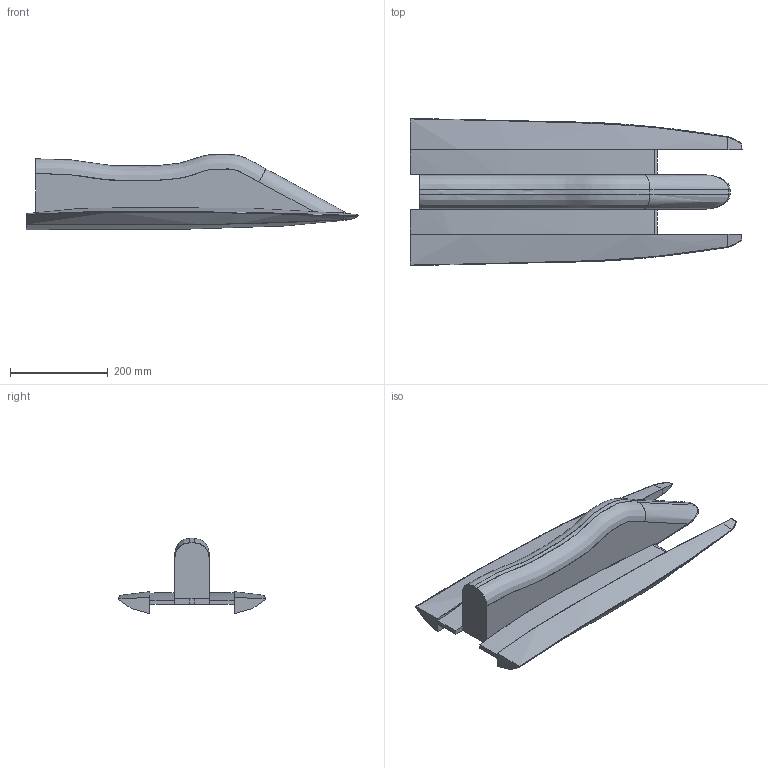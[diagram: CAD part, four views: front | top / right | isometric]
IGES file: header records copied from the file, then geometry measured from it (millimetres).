
Start section: START RECORD GO HERE.
Global section: file name: Lodka.igs; native system: IBM CATIA IGES - CATIA Version 5 Release 18 ; preprocessor: CATIA Version 5 Release 18 ; author: Kolotilin; organization: K31; date: 20110401.165541; units: millimetre
Bounding box: 679.6 x 301.13 x 154.45 mm (x, y, z)
Surface area: 599285.4 mm2 (no closed solid volume)
Topology: 0 solids, 0 shells, 57 faces, 274 edges, 274 vertices
Faces by surface type: plane 25, bspline 20, revolution 7, extrusion 5
